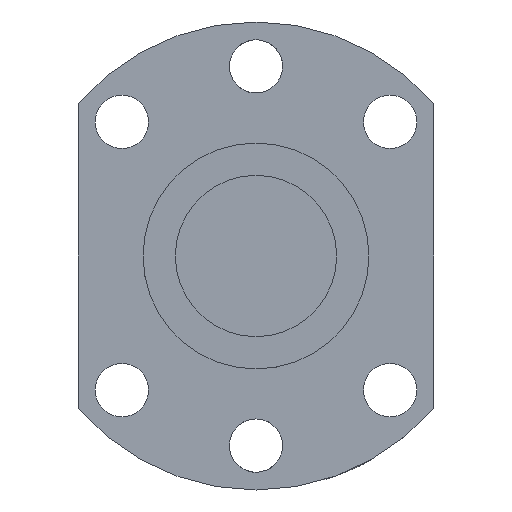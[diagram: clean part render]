
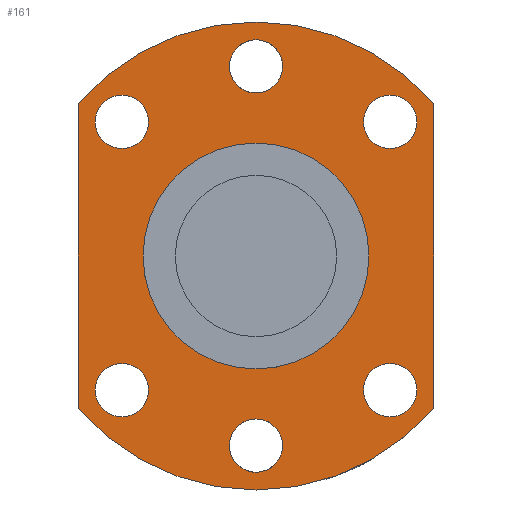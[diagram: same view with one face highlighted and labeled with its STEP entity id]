
A CAD part, front view. The second image highlights one B-rep face of the part: STEP entity #161.
In plain terms, the highlighted planar face has unit normal (0, -1, 0).
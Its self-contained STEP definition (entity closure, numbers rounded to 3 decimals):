
#98=LINE('',#873,#108);
#102=LINE('',#944,#112);
#108=VECTOR('',#693,1.);
#112=VECTOR('',#705,1.);
#135=PLANE('',#616);
#161=ADVANCED_FACE('',(#224,#225,#226,#227,#228,#229,#230,#231),#135,.F.);
#224=FACE_BOUND('',#297,.T.);
#225=FACE_BOUND('',#298,.T.);
#226=FACE_BOUND('',#299,.T.);
#227=FACE_BOUND('',#300,.T.);
#228=FACE_BOUND('',#301,.T.);
#229=FACE_BOUND('',#302,.T.);
#230=FACE_BOUND('',#303,.T.);
#231=FACE_BOUND('',#304,.T.);
#297=EDGE_LOOP('',(#387));
#298=EDGE_LOOP('',(#388));
#299=EDGE_LOOP('',(#389));
#300=EDGE_LOOP('',(#390));
#301=EDGE_LOOP('',(#391));
#302=EDGE_LOOP('',(#392));
#303=EDGE_LOOP('',(#393));
#304=EDGE_LOOP('',(#394,#395,#396,#397));
#387=ORIENTED_EDGE('',*,*,#517,.F.);
#388=ORIENTED_EDGE('',*,*,#518,.F.);
#389=ORIENTED_EDGE('',*,*,#519,.F.);
#390=ORIENTED_EDGE('',*,*,#520,.T.);
#391=ORIENTED_EDGE('',*,*,#521,.T.);
#392=ORIENTED_EDGE('',*,*,#522,.T.);
#393=ORIENTED_EDGE('',*,*,#523,.T.);
#394=ORIENTED_EDGE('',*,*,#497,.F.);
#395=ORIENTED_EDGE('',*,*,#508,.F.);
#396=ORIENTED_EDGE('',*,*,#505,.F.);
#397=ORIENTED_EDGE('',*,*,#501,.F.);
#453=VERTEX_POINT('',#865);
#454=VERTEX_POINT('',#866);
#457=VERTEX_POINT('',#874);
#460=VERTEX_POINT('',#939);
#469=VERTEX_POINT('',#963);
#470=VERTEX_POINT('',#965);
#471=VERTEX_POINT('',#967);
#472=VERTEX_POINT('',#969);
#473=VERTEX_POINT('',#971);
#474=VERTEX_POINT('',#973);
#475=VERTEX_POINT('',#975);
#497=EDGE_CURVE('',#453,#454,#546,.T.);
#501=EDGE_CURVE('',#454,#457,#98,.T.);
#505=EDGE_CURVE('',#457,#460,#548,.T.);
#508=EDGE_CURVE('',#460,#453,#102,.T.);
#517=EDGE_CURVE('',#469,#469,#557,.T.);
#518=EDGE_CURVE('',#470,#470,#558,.T.);
#519=EDGE_CURVE('',#471,#471,#559,.T.);
#520=EDGE_CURVE('',#472,#472,#560,.T.);
#521=EDGE_CURVE('',#473,#473,#561,.T.);
#522=EDGE_CURVE('',#474,#474,#562,.T.);
#523=EDGE_CURVE('',#475,#475,#563,.T.);
#546=CIRCLE('',#593,29.);
#548=CIRCLE('',#597,29.);
#557=CIRCLE('',#609,3.3);
#558=CIRCLE('',#610,3.3);
#559=CIRCLE('',#611,3.3);
#560=CIRCLE('',#612,3.3);
#561=CIRCLE('',#613,3.3);
#562=CIRCLE('',#614,3.3);
#563=CIRCLE('',#615,14.);
#593=AXIS2_PLACEMENT_3D('',#864,#685,#686);
#597=AXIS2_PLACEMENT_3D('',#938,#698,#699);
#609=AXIS2_PLACEMENT_3D('',#962,#725,#726);
#610=AXIS2_PLACEMENT_3D('',#964,#727,#728);
#611=AXIS2_PLACEMENT_3D('',#966,#729,#730);
#612=AXIS2_PLACEMENT_3D('',#968,#731,#732);
#613=AXIS2_PLACEMENT_3D('',#970,#733,#734);
#614=AXIS2_PLACEMENT_3D('',#972,#735,#736);
#615=AXIS2_PLACEMENT_3D('',#974,#737,#738);
#616=AXIS2_PLACEMENT_3D('',#976,#739,#740);
#685=DIRECTION('',(0.,1.,0.));
#686=DIRECTION('',(1.,0.,0.));
#693=DIRECTION('',(0.,0.,-1.));
#698=DIRECTION('',(0.,1.,0.));
#699=DIRECTION('',(1.,0.,0.));
#705=DIRECTION('',(0.,0.,1.));
#725=DIRECTION('',(0.,-1.,0.));
#726=DIRECTION('',(-1.,0.,0.));
#727=DIRECTION('',(0.,-1.,0.));
#728=DIRECTION('',(-0.707,0.,-0.707));
#729=DIRECTION('',(0.,-1.,0.));
#730=DIRECTION('',(0.,0.,-1.));
#731=DIRECTION('',(0.,1.,0.));
#732=DIRECTION('',(-1.,0.,0.));
#733=DIRECTION('',(0.,1.,0.));
#734=DIRECTION('',(-0.707,0.,0.707));
#735=DIRECTION('',(0.,1.,0.));
#736=DIRECTION('',(0.,0.,1.));
#737=DIRECTION('',(0.,1.,0.));
#738=DIRECTION('',(0.,0.,1.));
#739=DIRECTION('',(0.,1.,0.));
#740=DIRECTION('',(0.,0.,-1.));
#864=CARTESIAN_POINT('',(0.,-25.5,0.));
#865=CARTESIAN_POINT('',(-22.,-25.5,18.894));
#866=CARTESIAN_POINT('',(22.,-25.5,18.894));
#873=CARTESIAN_POINT('',(22.,-25.5,18.894));
#874=CARTESIAN_POINT('',(22.,-25.5,-18.894));
#938=CARTESIAN_POINT('',(0.,-25.5,0.));
#939=CARTESIAN_POINT('',(-22.,-25.5,-18.894));
#944=CARTESIAN_POINT('',(-22.,-25.5,-18.894));
#962=CARTESIAN_POINT('',(16.617,-25.5,16.617));
#963=CARTESIAN_POINT('',(13.317,-25.5,16.617));
#964=CARTESIAN_POINT('',(0.,-25.5,23.5));
#965=CARTESIAN_POINT('',(-2.333,-25.5,21.167));
#966=CARTESIAN_POINT('',(-16.617,-25.5,16.617));
#967=CARTESIAN_POINT('',(-16.617,-25.5,13.317));
#968=CARTESIAN_POINT('',(16.617,-25.5,-16.617));
#969=CARTESIAN_POINT('',(13.317,-25.5,-16.617));
#970=CARTESIAN_POINT('',(0.,-25.5,-23.5));
#971=CARTESIAN_POINT('',(-2.333,-25.5,-21.167));
#972=CARTESIAN_POINT('',(-16.617,-25.5,-16.617));
#973=CARTESIAN_POINT('',(-16.617,-25.5,-13.317));
#974=CARTESIAN_POINT('',(0.,-25.5,0.));
#975=CARTESIAN_POINT('',(0.,-25.5,14.));
#976=CARTESIAN_POINT('',(0.,-25.5,0.));
